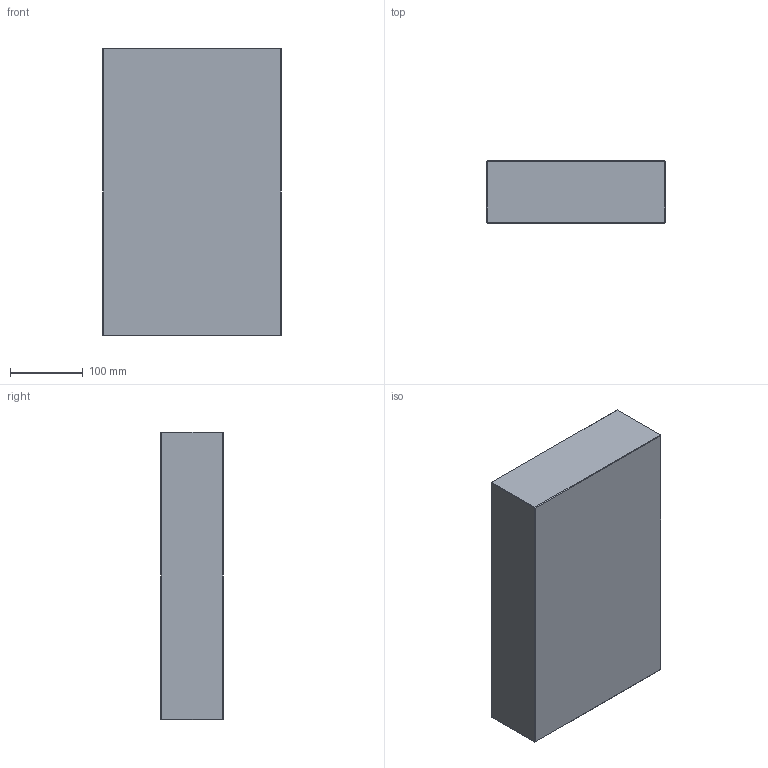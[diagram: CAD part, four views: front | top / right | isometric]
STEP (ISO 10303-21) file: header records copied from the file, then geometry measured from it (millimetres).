
FILE_DESCRIPTION (( 'STEP AP214' ), '1' );
FILE_NAME ('PC-P-246x396x86.STEP', '2020-04-01T08:45:40', ( 'August' ), ( '' ), 'SwSTEP 2.0', 'SolidWorks 2018', '' );
FILE_SCHEMA (( 'AUTOMOTIVE_DESIGN' ));
Length unit declared in the file: millimetre
Products named in the file (1): PC-P-246x396x86
Bounding box: 246 x 86 x 396 mm (x, y, z)
Volume: 8376325.3 mm3; surface area: 303547.2 mm2
Topology: 1 solids, 1 shells, 26 faces, 48 edges, 24 vertices
Faces by surface type: plane 26
Entity records: 634 total; most frequent: DIRECTION 102, CARTESIAN_POINT 99, ORIENTED_EDGE 96, EDGE_CURVE 48, LINE 48, VECTOR 48, AXIS2_PLACEMENT_3D 27, ADVANCED_FACE 26
